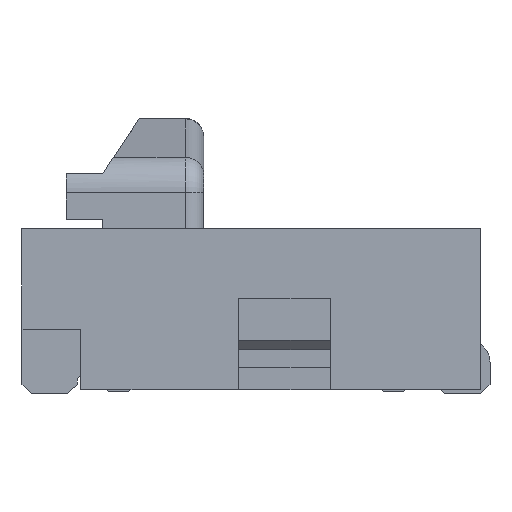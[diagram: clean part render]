
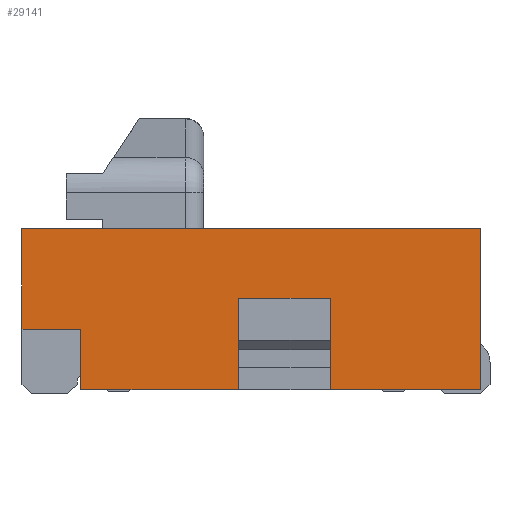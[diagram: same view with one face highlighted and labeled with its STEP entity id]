
A CAD part, left-side view. The second image highlights one B-rep face of the part: STEP entity #29141.
In plain terms, the highlighted planar face has unit normal (-1, 0, 0).
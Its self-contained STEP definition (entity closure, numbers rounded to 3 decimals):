
#559 = DIRECTION ( 'NONE',  ( 0., -1., 0. ) ) ;
#1542 = VECTOR ( 'NONE', #7246, 1000. ) ;
#1777 = VECTOR ( 'NONE', #559, 1000. ) ;
#3594 = CARTESIAN_POINT ( 'NONE',  ( -3., 0., 0. ) ) ;
#3728 = VECTOR ( 'NONE', #10095, 1000. ) ;
#3739 = DIRECTION ( 'NONE',  ( 0., 0., 1. ) ) ;
#3762 = VECTOR ( 'NONE', #8585, 1000. ) ;
#4335 = CARTESIAN_POINT ( 'NONE',  ( -3., -2.5, -0.88 ) ) ;
#4582 = EDGE_CURVE ( 'NONE', #17259, #42975, #20334, .T. ) ;
#5066 = LINE ( 'NONE', #4335, #3762 ) ;
#7246 = DIRECTION ( 'NONE',  ( 0., 1., 0. ) ) ;
#7559 = CARTESIAN_POINT ( 'NONE',  ( -3., -1.18, -0.38 ) ) ;
#7909 = VECTOR ( 'NONE', #14902, 1000. ) ;
#8585 = DIRECTION ( 'NONE',  ( 0., 0., 1. ) ) ;
#9180 = VERTEX_POINT ( 'NONE', #37680 ) ;
#9908 = LINE ( 'NONE', #47898, #53444 ) ;
#10095 = DIRECTION ( 'NONE',  ( 0., -1., 0. ) ) ;
#10357 = EDGE_LOOP ( 'NONE', ( #52933, #31550, #53843, #23643, #27453, #25935, #50136, #18019, #40728, #34997 ) ) ;
#10873 = VERTEX_POINT ( 'NONE', #25141 ) ;
#12356 = DIRECTION ( 'NONE',  ( 0., 0., -1. ) ) ;
#12598 = CARTESIAN_POINT ( 'NONE',  ( -3., -1.68, -0.88 ) ) ;
#13795 = CARTESIAN_POINT ( 'NONE',  ( -3., 0., -0.55 ) ) ;
#14902 = DIRECTION ( 'NONE',  ( 0., 1., 0. ) ) ;
#15193 = DIRECTION ( 'NONE',  ( 0., 1., 0. ) ) ;
#15396 = EDGE_CURVE ( 'NONE', #22210, #17259, #19186, .T. ) ;
#15429 = AXIS2_PLACEMENT_3D ( 'NONE', #48735, #40474, #15193 ) ;
#17259 = VERTEX_POINT ( 'NONE', #3594 ) ;
#18019 = ORIENTED_EDGE ( 'NONE', *, *, #39736, .F. ) ;
#18446 = EDGE_CURVE ( 'NONE', #9180, #48665, #31494, .T. ) ;
#19186 = LINE ( 'NONE', #31707, #7909 ) ;
#19501 = VECTOR ( 'NONE', #41386, 1000. ) ;
#20255 = VERTEX_POINT ( 'NONE', #42283 ) ;
#20334 = LINE ( 'NONE', #21351, #42764 ) ;
#20516 = CARTESIAN_POINT ( 'NONE',  ( -3., -1.18, -0.88 ) ) ;
#21126 = VECTOR ( 'NONE', #3739, 1000. ) ;
#21351 = CARTESIAN_POINT ( 'NONE',  ( -3., 0., 0. ) ) ;
#21358 = DIRECTION ( 'NONE',  ( 0., 0., -1. ) ) ;
#22210 = VERTEX_POINT ( 'NONE', #37114 ) ;
#23484 = PLANE ( 'NONE',  #15429 ) ;
#23643 = ORIENTED_EDGE ( 'NONE', *, *, #35208, .T. ) ;
#24809 = CARTESIAN_POINT ( 'NONE',  ( -3., -0.32, -0.88 ) ) ;
#24920 = EDGE_CURVE ( 'NONE', #45533, #20255, #32365, .T. ) ;
#25141 = CARTESIAN_POINT ( 'NONE',  ( -3., -2.5, -0.88 ) ) ;
#25935 = ORIENTED_EDGE ( 'NONE', *, *, #15396, .T. ) ;
#27453 = ORIENTED_EDGE ( 'NONE', *, *, #30062, .T. ) ;
#28030 = EDGE_CURVE ( 'NONE', #41561, #29347, #53078, .T. ) ;
#28917 = CARTESIAN_POINT ( 'NONE',  ( -3., -1.18, -0.38 ) ) ;
#29141 = ADVANCED_FACE ( 'NONE', ( #39836 ), #23484, .F. ) ;
#29347 = VERTEX_POINT ( 'NONE', #20516 ) ;
#30032 = CARTESIAN_POINT ( 'NONE',  ( -3., -0.32, -0.88 ) ) ;
#30062 = EDGE_CURVE ( 'NONE', #10873, #22210, #5066, .T. ) ;
#31154 = DIRECTION ( 'NONE',  ( 0., -1., 0. ) ) ;
#31494 = LINE ( 'NONE', #33438, #53827 ) ;
#31550 = ORIENTED_EDGE ( 'NONE', *, *, #52723, .T. ) ;
#31707 = CARTESIAN_POINT ( 'NONE',  ( -3., 0., 0. ) ) ;
#32365 = LINE ( 'NONE', #24809, #21126 ) ;
#33438 = CARTESIAN_POINT ( 'NONE',  ( -3., -1.68, -0.38 ) ) ;
#34997 = ORIENTED_EDGE ( 'NONE', *, *, #52888, .T. ) ;
#35208 = EDGE_CURVE ( 'NONE', #48665, #10873, #9908, .T. ) ;
#35451 = CARTESIAN_POINT ( 'NONE',  ( -3., -2.5, -0.88 ) ) ;
#35494 = LINE ( 'NONE', #51082, #1777 ) ;
#37114 = CARTESIAN_POINT ( 'NONE',  ( -3., -2.5, 0. ) ) ;
#37680 = CARTESIAN_POINT ( 'NONE',  ( -3., -1.68, -0.38 ) ) ;
#39736 = EDGE_CURVE ( 'NONE', #20255, #42975, #47761, .T. ) ;
#39836 = FACE_OUTER_BOUND ( 'NONE', #10357, .T. ) ;
#40474 = DIRECTION ( 'NONE',  ( 1., 0., 0. ) ) ;
#40728 = ORIENTED_EDGE ( 'NONE', *, *, #24920, .F. ) ;
#40900 = CARTESIAN_POINT ( 'NONE',  ( -3., 0., -0.55 ) ) ;
#41386 = DIRECTION ( 'NONE',  ( 0., 0., -1. ) ) ;
#41561 = VERTEX_POINT ( 'NONE', #28917 ) ;
#42283 = CARTESIAN_POINT ( 'NONE',  ( -3., -0.32, -0.55 ) ) ;
#42764 = VECTOR ( 'NONE', #21358, 1000. ) ;
#42975 = VERTEX_POINT ( 'NONE', #13795 ) ;
#45533 = VERTEX_POINT ( 'NONE', #30032 ) ;
#47761 = LINE ( 'NONE', #40900, #1542 ) ;
#47898 = CARTESIAN_POINT ( 'NONE',  ( -3., -2.5, -0.88 ) ) ;
#48641 = LINE ( 'NONE', #35451, #3728 ) ;
#48665 = VERTEX_POINT ( 'NONE', #12598 ) ;
#48735 = CARTESIAN_POINT ( 'NONE',  ( -3., -2.4, 0. ) ) ;
#50136 = ORIENTED_EDGE ( 'NONE', *, *, #4582, .T. ) ;
#51082 = CARTESIAN_POINT ( 'NONE',  ( -3., -1.18, -0.38 ) ) ;
#52723 = EDGE_CURVE ( 'NONE', #41561, #9180, #35494, .T. ) ;
#52888 = EDGE_CURVE ( 'NONE', #45533, #29347, #48641, .T. ) ;
#52933 = ORIENTED_EDGE ( 'NONE', *, *, #28030, .F. ) ;
#53078 = LINE ( 'NONE', #7559, #19501 ) ;
#53444 = VECTOR ( 'NONE', #31154, 1000. ) ;
#53827 = VECTOR ( 'NONE', #12356, 1000. ) ;
#53843 = ORIENTED_EDGE ( 'NONE', *, *, #18446, .T. ) ;
